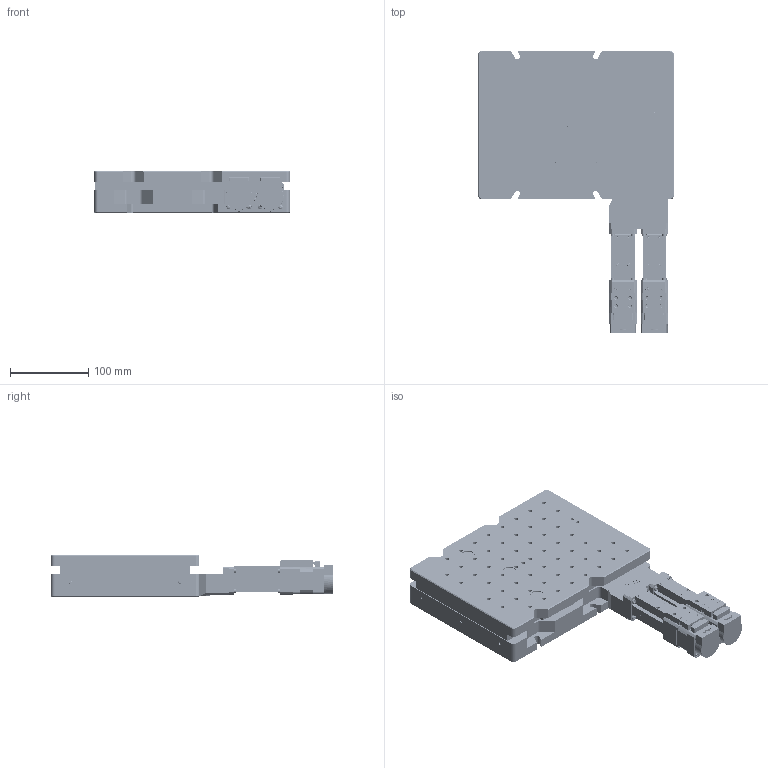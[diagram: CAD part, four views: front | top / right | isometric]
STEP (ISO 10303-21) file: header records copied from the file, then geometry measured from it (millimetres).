
FILE_DESCRIPTION(/* description */ (''),/* implementation_level */ '2;1');
FILE_NAME(/* name */ '8MTP250-MEn9.stp',/* time_stamp */ '2024-10-03T14:23:20+03:00',/* author */ ('dsgn39'),/* organization */ (''),/* preprocessor_version */ 'ST-DEVELOPER v20',/* originating_system */ 'Autodesk Inventor 2024',/* authorisation */ '');
FILE_SCHEMA (('AUTOMOTIVE_DESIGN { 1 0 10303 214 3 1 1 }'));
Products named in the file (1): 8MTP250-MEn9 SB_Simplify_1
Bounding box: 250 x 361 x 54 mm (x, y, z)
Volume: 2707916.4 mm3; surface area: 266470.4 mm2
Topology: 4 solids, 162 shells, 4763 faces, 12199 edges, 8031 vertices
Faces by surface type: plane 2869, cylinder 747, bspline 670, cone 343, torus 118, sphere 16
Full cylindrical faces by diameter (mm): 1.567 x18, 1.783 x8, 2 x28, 2.013 x8, 2.4 x16, 2.459 x29, 2.5 x16, 2.75 x8, 2.9 x4, 3 x35, 3.4 x34, 3.8 x8, 4.134 x4, 4.2 x59, 4.3 x8, 4.5 x4, 4.8 x1, 4.917 x66, 5 x6, 5.188 x2, 5.5 x26, 6 x13, 6.1 x8, 6.6 x3, 9.2 x1, 10 x4, 11 x1, 12 x1, 13.2 x2, 15 x3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
Entity records: 151876 total; most frequent: CARTESIAN_POINT 40016, ORIENTED_EDGE 24226, DIRECTION 20832, EDGE_CURVE 12113, VERTEX_POINT 8045, LINE 7692, VECTOR 7692, AXIS2_PLACEMENT_3D 6570
